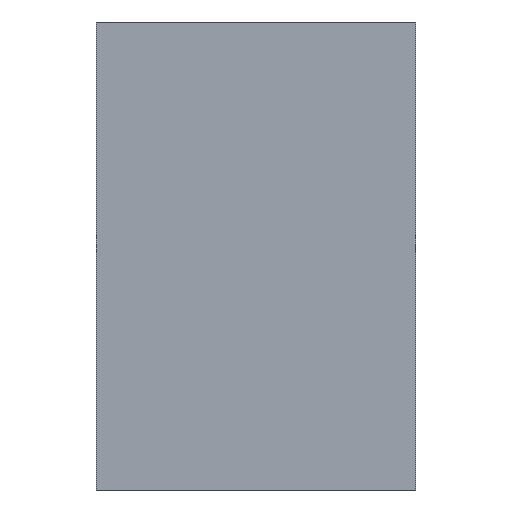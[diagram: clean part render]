
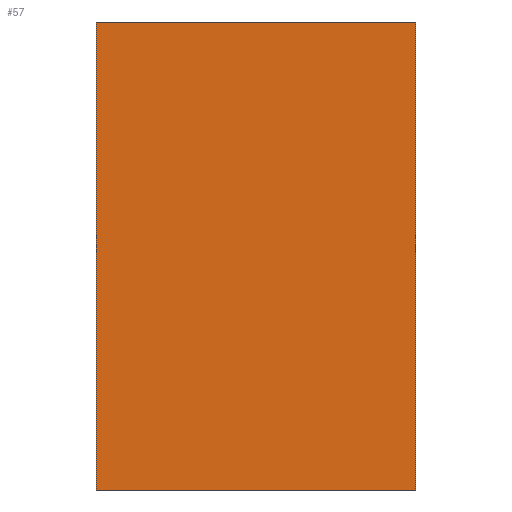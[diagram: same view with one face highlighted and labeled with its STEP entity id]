
A CAD part, left-side view. The second image highlights one B-rep face of the part: STEP entity #57.
In plain terms, the highlighted planar face has unit normal (-1, 0, 0).
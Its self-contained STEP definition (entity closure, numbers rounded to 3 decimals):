
#21 = EDGE_CURVE('',#22,#24,#26,.T.);
#22 = VERTEX_POINT('',#23);
#23 = CARTESIAN_POINT('',(0.,0.,88.));
#24 = VERTEX_POINT('',#25);
#25 = CARTESIAN_POINT('',(0.,60.,88.));
#26 = LINE('',#27,#28);
#27 = CARTESIAN_POINT('',(0.,0.,88.));
#28 = VECTOR('',#29,1.);
#29 = DIRECTION('',(-0.,1.,0.));
#57 = ADVANCED_FACE('',(#58),#83,.F.);
#58 = FACE_BOUND('',#59,.T.);
#59 = EDGE_LOOP('',(#60,#61,#69,#77));
#60 = ORIENTED_EDGE('',*,*,#21,.T.);
#61 = ORIENTED_EDGE('',*,*,#62,.F.);
#62 = EDGE_CURVE('',#63,#24,#65,.T.);
#63 = VERTEX_POINT('',#64);
#64 = CARTESIAN_POINT('',(0.,60.,0.));
#65 = LINE('',#66,#67);
#66 = CARTESIAN_POINT('',(0.,60.,0.));
#67 = VECTOR('',#68,1.);
#68 = DIRECTION('',(0.,0.,1.));
#69 = ORIENTED_EDGE('',*,*,#70,.F.);
#70 = EDGE_CURVE('',#71,#63,#73,.T.);
#71 = VERTEX_POINT('',#72);
#72 = CARTESIAN_POINT('',(0.,0.,0.));
#73 = LINE('',#74,#75);
#74 = CARTESIAN_POINT('',(0.,0.,0.));
#75 = VECTOR('',#76,1.);
#76 = DIRECTION('',(-0.,1.,0.));
#77 = ORIENTED_EDGE('',*,*,#78,.T.);
#78 = EDGE_CURVE('',#71,#22,#79,.T.);
#79 = LINE('',#80,#81);
#80 = CARTESIAN_POINT('',(0.,0.,0.));
#81 = VECTOR('',#82,1.);
#82 = DIRECTION('',(0.,0.,1.));
#83 = PLANE('',#84);
#84 = AXIS2_PLACEMENT_3D('',#85,#86,#87);
#85 = CARTESIAN_POINT('',(0.,0.,0.));
#86 = DIRECTION('',(1.,0.,-0.));
#87 = DIRECTION('',(0.,0.,1.));
